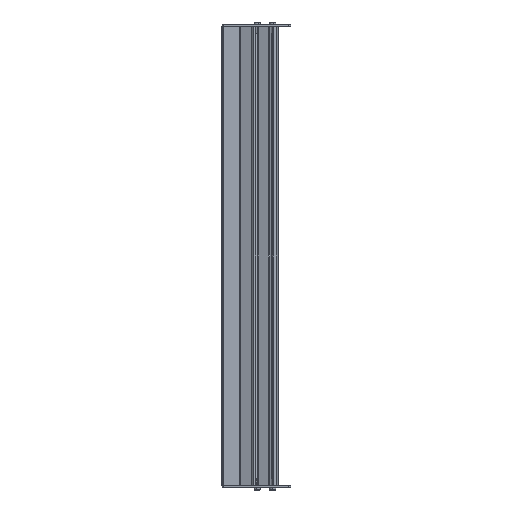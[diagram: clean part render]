
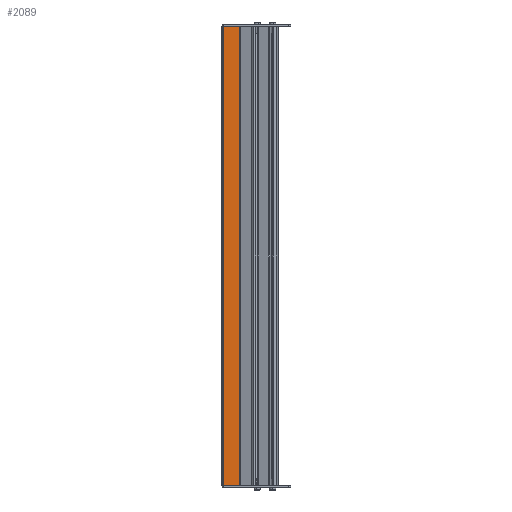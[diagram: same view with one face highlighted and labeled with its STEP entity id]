
A CAD part, left-side view. The second image highlights one B-rep face of the part: STEP entity #2089.
In plain terms, the highlighted planar face has unit normal (-1, 0, 0) as drawn and (1, 0, 0) by its records, which use the part's own axes.
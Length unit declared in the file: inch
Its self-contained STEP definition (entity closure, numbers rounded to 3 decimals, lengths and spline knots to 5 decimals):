
#1213=DIRECTION('',(0.,0.,1.));
#1214=VECTOR('',#1213,24.236);
#1215=CARTESIAN_POINT('',(0.048,0.01693,-12.118));
#1216=LINE('',#1215,#1214);
#1243=DIRECTION('',(0.,-1.,0.));
#1244=VECTOR('',#1243,0.88707);
#1245=CARTESIAN_POINT('',(0.048,0.904,-12.118));
#1246=LINE('',#1245,#1244);
#1247=DIRECTION('',(0.,-1.,0.));
#1248=VECTOR('',#1247,0.88707);
#1249=CARTESIAN_POINT('',(0.048,0.904,12.118));
#1250=LINE('',#1249,#1248);
#1251=DIRECTION('',(0.,0.,-1.));
#1252=VECTOR('',#1251,24.236);
#1253=CARTESIAN_POINT('',(0.048,0.904,12.118));
#1254=LINE('',#1253,#1252);
#1568=CARTESIAN_POINT('',(0.048,0.01693,-12.118));
#1570=VERTEX_POINT('',#1568);
#1583=CARTESIAN_POINT('',(0.048,0.904,12.118));
#1585=VERTEX_POINT('',#1583);
#1592=CARTESIAN_POINT('',(0.048,0.01693,12.118));
#1594=VERTEX_POINT('',#1592);
#1623=CARTESIAN_POINT('',(0.048,0.904,-12.118));
#1624=VERTEX_POINT('',#1623);
#2077=CARTESIAN_POINT('',(0.048,0.,12.118));
#2078=DIRECTION('',(-1.,0.,0.));
#2079=DIRECTION('',(0.,0.,1.));
#2080=AXIS2_PLACEMENT_3D('',#2077,#2078,#2079);
#2081=PLANE('',#2080);
#2082=ORIENTED_EDGE('',*,*,#2070,.T.);
#2083=ORIENTED_EDGE('',*,*,#2013,.T.);
#2084=ORIENTED_EDGE('',*,*,#2042,.F.);
#2086=ORIENTED_EDGE('',*,*,#2085,.T.);
#2087=EDGE_LOOP('',(#2082,#2083,#2084,#2086));
#2088=FACE_OUTER_BOUND('',#2087,.F.);
#2013=EDGE_CURVE('',#1570,#1594,#1216,.T.);
#2042=EDGE_CURVE('',#1585,#1594,#1250,.T.);
#2070=EDGE_CURVE('',#1624,#1570,#1246,.T.);
#2085=EDGE_CURVE('',#1585,#1624,#1254,.T.);
#2089=ADVANCED_FACE('',(#2088),#2081,.F.);
